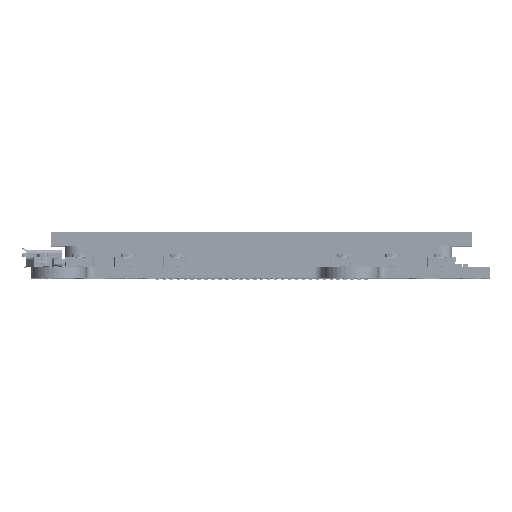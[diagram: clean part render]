
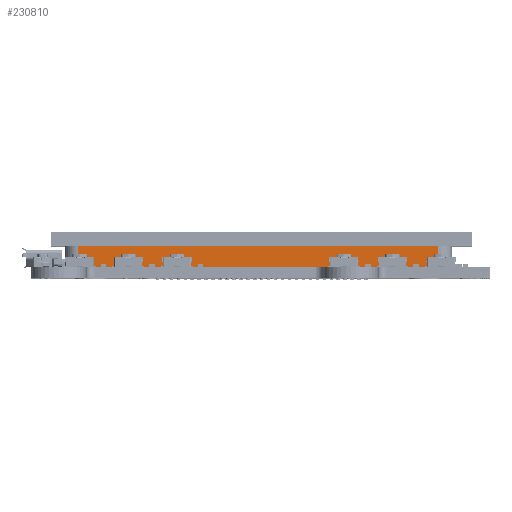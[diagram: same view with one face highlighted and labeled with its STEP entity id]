
A CAD part, top view. The second image highlights one B-rep face of the part: STEP entity #230810.
In plain terms, the highlighted planar face has unit normal (0, 0, 1) as drawn and (0, 1, 0) by its records, which use the part's own axes.
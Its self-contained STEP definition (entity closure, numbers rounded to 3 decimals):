
#6114 = EDGE_CURVE ( 'NONE', #155411, #155322, #199773, .T. ) ;
#6181 = EDGE_CURVE ( 'NONE', #155313, #155440, #199858, .T. ) ;
#9588 = ORIENTED_EDGE ( 'NONE', *, *, #6181, .F. ) ;
#9652 = ORIENTED_EDGE ( 'NONE', *, *, #6114, .T. ) ;
#9654 = ORIENTED_EDGE ( 'NONE', *, *, #169435, .T. ) ;
#9656 = ORIENTED_EDGE ( 'NONE', *, *, #169420, .T. ) ;
#76685 = AXIS2_PLACEMENT_3D ( 'NONE', #90396, #90398, #90400 ) ;
#88765 = FACE_OUTER_BOUND ( 'NONE', #159395, .T. ) ;
#90395 = PLANE ( 'NONE',  #76685 ) ;
#90396 = CARTESIAN_POINT ( 'NONE',  ( -160.573, -106.702, 3. ) ) ;
#90398 = DIRECTION ( 'NONE',  ( 0., -1., 0. ) ) ;
#90400 = DIRECTION ( 'NONE',  ( 0., 0., -1. ) ) ;
#155313 = VERTEX_POINT ( 'NONE', #311538 ) ;
#155322 = VERTEX_POINT ( 'NONE', #311548 ) ;
#155411 = VERTEX_POINT ( 'NONE', #311667 ) ;
#155440 = VERTEX_POINT ( 'NONE', #311706 ) ;
#159395 = EDGE_LOOP ( 'NONE', ( #9588, #9656, #9652, #9654 ) ) ;
#169420 = EDGE_CURVE ( 'NONE', #155313, #155411, #280127, .T. ) ;
#169435 = EDGE_CURVE ( 'NONE', #155322, #155440, #280146, .T. ) ;
#199773 = LINE ( 'NONE', #332366, #199779 ) ;
#199779 = VECTOR ( 'NONE', #332369, 1000. ) ;
#199858 = LINE ( 'NONE', #332543, #199863 ) ;
#199863 = VECTOR ( 'NONE', #332548, 1000. ) ;
#230810 = ADVANCED_FACE ( 'NONE', ( #88765 ), #90395, .F. ) ;
#280127 = LINE ( 'NONE', #282643, #280128 ) ;
#280128 = VECTOR ( 'NONE', #282645, 1000. ) ;
#280146 = LINE ( 'NONE', #282720, #280148 ) ;
#280148 = VECTOR ( 'NONE', #282722, 1000. ) ;
#282643 = CARTESIAN_POINT ( 'NONE',  ( -106.827, -106.702, 3. ) ) ;
#282645 = DIRECTION ( 'NONE',  ( 0., 0., -1. ) ) ;
#282720 = CARTESIAN_POINT ( 'NONE',  ( -158.573, -106.702, 3. ) ) ;
#282722 = DIRECTION ( 'NONE',  ( 0., 0., 1. ) ) ;
#311538 = CARTESIAN_POINT ( 'NONE',  ( -106.827, -106.702, 3. ) ) ;
#311548 = CARTESIAN_POINT ( 'NONE',  ( -158.573, -106.702, 0. ) ) ;
#311667 = CARTESIAN_POINT ( 'NONE',  ( -106.827, -106.702, 0. ) ) ;
#311706 = CARTESIAN_POINT ( 'NONE',  ( -158.573, -106.702, 3. ) ) ;
#332366 = CARTESIAN_POINT ( 'NONE',  ( -160.573, -106.702, 0. ) ) ;
#332369 = DIRECTION ( 'NONE',  ( -1., 0., 0. ) ) ;
#332543 = CARTESIAN_POINT ( 'NONE',  ( -160.573, -106.702, 3. ) ) ;
#332548 = DIRECTION ( 'NONE',  ( -1., 0., 0. ) ) ;
